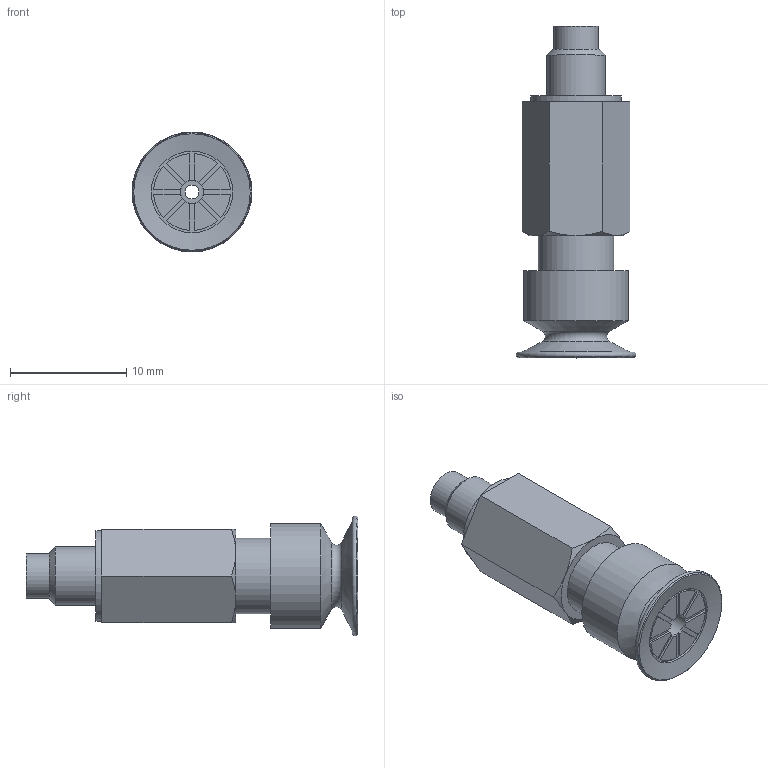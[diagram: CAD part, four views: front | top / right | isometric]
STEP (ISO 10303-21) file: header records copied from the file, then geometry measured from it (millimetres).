
FILE_DESCRIPTION(('STEP AP203'),'1');
FILE_NAME('.stp','2024-08-09T03:27:24',(' '),(' '),'Spatial InterOp 3D',' ',' ');
FILE_SCHEMA(('CONFIG_CONTROL_DESIGN'));
Length unit declared in the file: millimetre
Products named in the file (4): BPSS-L3-BPAG-10B-※; BPSS-10A-L3-M; BPSS-10A-L3-F; BPAG-10B-※
Assembly tree (3 placements, depth 2):
  BPSS-L3-BPAG-10B-※
    BPSS-10A-L3-M
    BPSS-10A-L3-F
    BPAG-10B-※
Bounding box: 10.3 x 28.5 x 10.3 mm (x, y, z)
Volume: 1122.3 mm3; surface area: 1772.2 mm2
Topology: 3 solids, 3 shells, 89 faces, 203 edges, 130 vertices
Faces by surface type: plane 46, cylinder 24, cone 11, torus 8
Full cylindrical faces by diameter (mm): 1.2 x1, 2 x1, 2.4 x2, 3.4 x1, 3.8 x1, 4 x2, 5 x1, 6 x2, 6.5 x2, 7 x1, 7.8 x1, 9 x1
Entity records: 2532 total; most frequent: DIRECTION 424, CARTESIAN_POINT 411, ORIENTED_EDGE 338, AXIS2_PLACEMENT_3D 174, EDGE_CURVE 169, EDGE_LOOP 134, VERTEX_POINT 125, FACE_OUTER_BOUND 113
